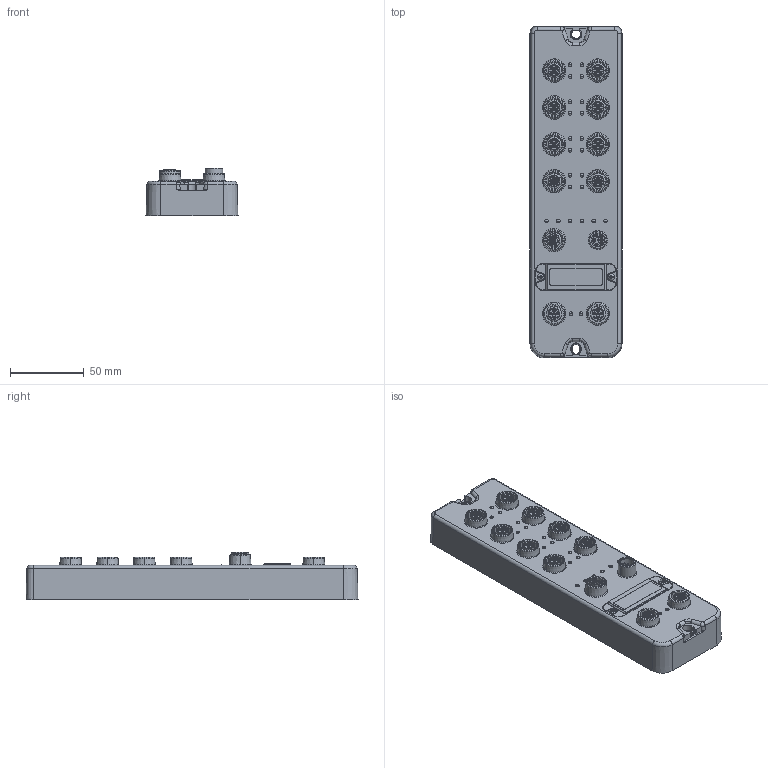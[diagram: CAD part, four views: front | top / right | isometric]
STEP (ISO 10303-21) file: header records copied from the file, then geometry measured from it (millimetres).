
FILE_DESCRIPTION((''),'2;1');
FILE_NAME('IO_LINK_MASTER_1126_SW0001','2025-12-04T18:03:17',('Administrator'),(''),'CREO PARAMETRIC BY PTC INC, 2022073','CREO PARAMETRIC BY PTC INC, 2022073','');
FILE_SCHEMA(('CONFIG_CONTROL_DESIGN'));
Products named in the file (1): IO_LINK_MASTER_1126_SW0001
Bounding box: 62.5 x 225.5 x 32.6 mm (x, y, z)
Volume: 330297.3 mm3; surface area: 52901 mm2
Topology: 1 solids, 1 shells, 1703 faces, 4377 edges, 2845 vertices
Faces by surface type: plane 618, cylinder 465, torus 322, cone 156, sphere 62, bspline 59, extrusion 21
Entity records: 57356 total; most frequent: CARTESIAN_POINT 14923, DIRECTION 9438, ORIENTED_EDGE 8626, EDGE_CURVE 4313, AXIS2_PLACEMENT_3D 3854, VERTEX_POINT 2845, CIRCLE 2227, EDGE_LOOP 1950
